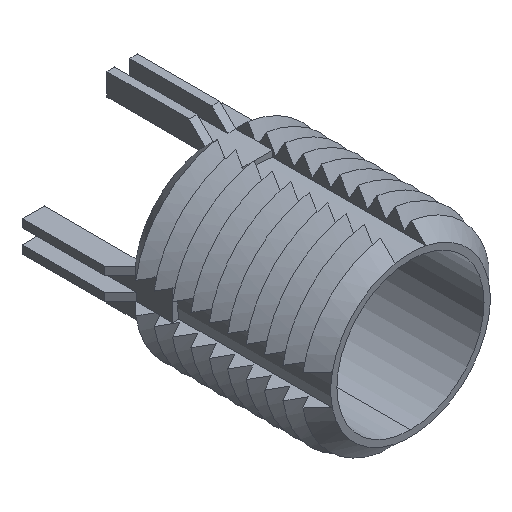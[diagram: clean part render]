
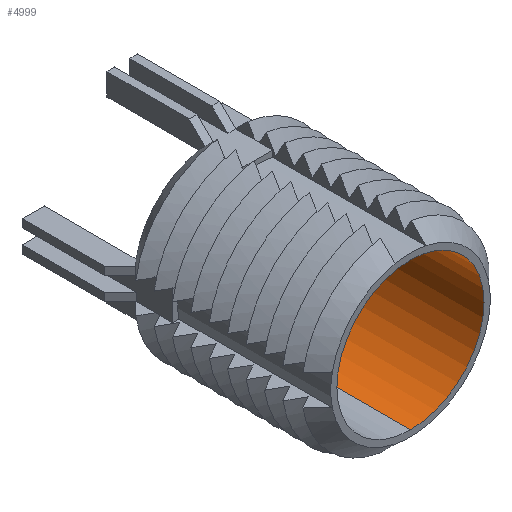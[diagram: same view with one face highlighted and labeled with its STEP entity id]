
A CAD part, isometric view. The second image highlights one B-rep face of the part: STEP entity #4999.
In plain terms, the highlighted cylindrical face has radius 6 mm (diameter 12 mm), a partial arc.
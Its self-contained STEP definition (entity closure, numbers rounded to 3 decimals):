
#143 = CARTESIAN_POINT ( 'NONE',  ( 0., -32.971, 6. ) ) ;
#404 = DIRECTION ( 'NONE',  ( 0., -1., 0. ) ) ;
#455 = CARTESIAN_POINT ( 'NONE',  ( 0., -32.971, -6. ) ) ;
#471 = ORIENTED_EDGE ( 'NONE', *, *, #4762, .T. ) ;
#537 = LINE ( 'NONE', #143, #1917 ) ;
#568 = EDGE_CURVE ( 'NONE', #4938, #2225, #537, .T. ) ;
#590 = AXIS2_PLACEMENT_3D ( 'NONE', #862, #404, #2538 ) ;
#672 = CARTESIAN_POINT ( 'NONE',  ( 0., -16., -6. ) ) ;
#778 = VERTEX_POINT ( 'NONE', #4327 ) ;
#839 = AXIS2_PLACEMENT_3D ( 'NONE', #2991, #3774, #3071 ) ;
#862 = CARTESIAN_POINT ( 'NONE',  ( 0., -16., 0. ) ) ;
#1011 = EDGE_LOOP ( 'NONE', ( #4404, #471, #2898, #1510 ) ) ;
#1163 = CARTESIAN_POINT ( 'NONE',  ( 0., 0., 0. ) ) ;
#1435 = CIRCLE ( 'NONE', #590, 6. ) ;
#1510 = ORIENTED_EDGE ( 'NONE', *, *, #2486, .T. ) ;
#1552 = VERTEX_POINT ( 'NONE', #672 ) ;
#1743 = FACE_OUTER_BOUND ( 'NONE', #1011, .T. ) ;
#1791 = EDGE_CURVE ( 'NONE', #1552, #778, #4089, .T. ) ;
#1797 = CARTESIAN_POINT ( 'NONE',  ( 0., -16., 6. ) ) ;
#1917 = VECTOR ( 'NONE', #3332, 1000. ) ;
#2225 = VERTEX_POINT ( 'NONE', #4108 ) ;
#2355 = DIRECTION ( 'NONE',  ( 0., 1., 0. ) ) ;
#2486 = EDGE_CURVE ( 'NONE', #2225, #778, #4044, .T. ) ;
#2534 = DIRECTION ( 'NONE',  ( 0., 1., 0. ) ) ;
#2538 = DIRECTION ( 'NONE',  ( 0., 0., 1. ) ) ;
#2898 = ORIENTED_EDGE ( 'NONE', *, *, #568, .T. ) ;
#2991 = CARTESIAN_POINT ( 'NONE',  ( 0., -32.971, 0. ) ) ;
#3071 = DIRECTION ( 'NONE',  ( 0., 0., 1. ) ) ;
#3157 = DIRECTION ( 'NONE',  ( 0., 0., 1. ) ) ;
#3332 = DIRECTION ( 'NONE',  ( 0., 1., 0. ) ) ;
#3357 = CYLINDRICAL_SURFACE ( 'NONE', #839, 6. ) ;
#3774 = DIRECTION ( 'NONE',  ( 0., 1., 0. ) ) ;
#4044 = CIRCLE ( 'NONE', #5062, 6. ) ;
#4089 = LINE ( 'NONE', #455, #4209 ) ;
#4108 = CARTESIAN_POINT ( 'NONE',  ( 0., 0., 6. ) ) ;
#4209 = VECTOR ( 'NONE', #2534, 1000. ) ;
#4327 = CARTESIAN_POINT ( 'NONE',  ( 0., 0., -6. ) ) ;
#4404 = ORIENTED_EDGE ( 'NONE', *, *, #1791, .F. ) ;
#4762 = EDGE_CURVE ( 'NONE', #1552, #4938, #1435, .T. ) ;
#4938 = VERTEX_POINT ( 'NONE', #1797 ) ;
#4999 = ADVANCED_FACE ( 'NONE', ( #1743 ), #3357, .F. ) ;
#5062 = AXIS2_PLACEMENT_3D ( 'NONE', #1163, #2355, #3157 ) ;
